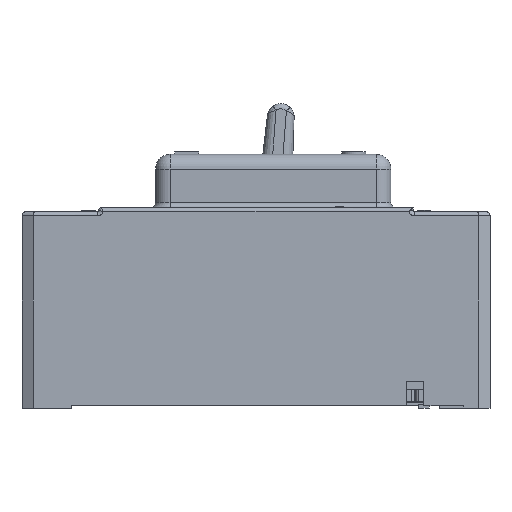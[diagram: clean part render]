
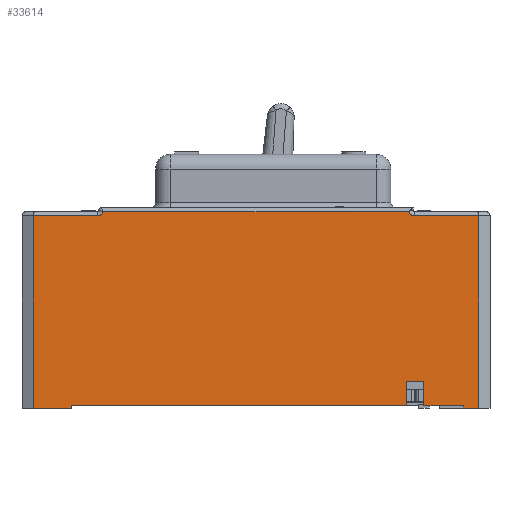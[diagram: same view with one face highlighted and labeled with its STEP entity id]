
A CAD part, left-side view. The second image highlights one B-rep face of the part: STEP entity #33614.
In plain terms, the highlighted planar face has unit normal (-1, 0, 0).
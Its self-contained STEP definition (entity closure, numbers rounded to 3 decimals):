
#177 = CARTESIAN_POINT ( 'NONE',  ( -56.25, -56.3, -44. ) ) ;
#270 = VERTEX_POINT ( 'NONE', #30763 ) ;
#380 = DIRECTION ( 'NONE',  ( 0., -1., 0. ) ) ;
#431 = CARTESIAN_POINT ( 'NONE',  ( -56.25, 59.242, 29. ) ) ;
#480 = ORIENTED_EDGE ( 'NONE', *, *, #27320, .T. ) ;
#682 = VERTEX_POINT ( 'NONE', #7555 ) ;
#942 = EDGE_CURVE ( 'NONE', #20586, #16869, #27100, .T. ) ;
#1024 = VERTEX_POINT ( 'NONE', #35393 ) ;
#2053 = CARTESIAN_POINT ( 'NONE',  ( -56.25, 69., -44. ) ) ;
#2203 = CARTESIAN_POINT ( 'NONE',  ( -56.25, -83.2, -45. ) ) ;
#2616 = EDGE_CURVE ( 'NONE', #1024, #25406, #31283, .T. ) ;
#2938 = VERTEX_POINT ( 'NONE', #24797 ) ;
#3259 = ORIENTED_EDGE ( 'NONE', *, *, #22129, .T. ) ;
#3402 = VERTEX_POINT ( 'NONE', #37374 ) ;
#3680 = FACE_OUTER_BOUND ( 'NONE', #26152, .T. ) ;
#3785 = DIRECTION ( 'NONE',  ( 0., 1., 0. ) ) ;
#3945 = CIRCLE ( 'NONE', #8688, 2. ) ;
#4149 = VERTEX_POINT ( 'NONE', #23396 ) ;
#4241 = CARTESIAN_POINT ( 'NONE',  ( -56.25, 57.306, 28.5 ) ) ;
#4589 = CARTESIAN_POINT ( 'NONE',  ( -56.25, -87.5, -45. ) ) ;
#5200 = ORIENTED_EDGE ( 'NONE', *, *, #942, .T. ) ;
#5362 = CARTESIAN_POINT ( 'NONE',  ( -56.25, 69., -45. ) ) ;
#5853 = ORIENTED_EDGE ( 'NONE', *, *, #17117, .T. ) ;
#6461 = ORIENTED_EDGE ( 'NONE', *, *, #7258, .T. ) ;
#6695 = VECTOR ( 'NONE', #27800, 1000. ) ;
#6725 = EDGE_CURVE ( 'NONE', #28127, #682, #12450, .T. ) ;
#6886 = ORIENTED_EDGE ( 'NONE', *, *, #32582, .T. ) ;
#7010 = VERTEX_POINT ( 'NONE', #5362 ) ;
#7258 = EDGE_CURVE ( 'NONE', #4149, #2938, #20115, .T. ) ;
#7387 = ORIENTED_EDGE ( 'NONE', *, *, #26447, .T. ) ;
#7472 = DIRECTION ( 'NONE',  ( 0., -1., 0. ) ) ;
#7555 = CARTESIAN_POINT ( 'NONE',  ( -56.25, 83.2, 27. ) ) ;
#7728 = CARTESIAN_POINT ( 'NONE',  ( -56.25, -87.5, -45. ) ) ;
#7906 = CARTESIAN_POINT ( 'NONE',  ( -56.25, -62.8, 92.737 ) ) ;
#7907 = VERTEX_POINT ( 'NONE', #25729 ) ;
#8293 = LINE ( 'NONE', #8379, #13101 ) ;
#8315 = CARTESIAN_POINT ( 'NONE',  ( -56.25, 69., -44. ) ) ;
#8379 = CARTESIAN_POINT ( 'NONE',  ( -56.25, 87.5, 27. ) ) ;
#8575 = DIRECTION ( 'NONE',  ( 0., -1., 0. ) ) ;
#8688 = AXIS2_PLACEMENT_3D ( 'NONE', #431, #30919, #3785 ) ;
#9067 = LINE ( 'NONE', #12442, #6695 ) ;
#9170 = VERTEX_POINT ( 'NONE', #23283 ) ;
#9936 = CARTESIAN_POINT ( 'NONE',  ( -56.25, -77.5, 144.712 ) ) ;
#10626 = LINE ( 'NONE', #35352, #35487 ) ;
#10855 = VECTOR ( 'NONE', #28685, 1000. ) ;
#11518 = VERTEX_POINT ( 'NONE', #23295 ) ;
#12005 = EDGE_CURVE ( 'NONE', #16869, #270, #8293, .T. ) ;
#12442 = CARTESIAN_POINT ( 'NONE',  ( -56.25, 57.742, 28.5 ) ) ;
#12450 = LINE ( 'NONE', #21860, #35875 ) ;
#12814 = ORIENTED_EDGE ( 'NONE', *, *, #2616, .F. ) ;
#12989 = CARTESIAN_POINT ( 'NONE',  ( -56.25, -62.8, -35. ) ) ;
#13101 = VECTOR ( 'NONE', #14657, 1000. ) ;
#13288 = DIRECTION ( 'NONE',  ( -1., 0., 0. ) ) ;
#13682 = DIRECTION ( 'NONE',  ( 0., 0., -1. ) ) ;
#14051 = DIRECTION ( 'NONE',  ( 0., 0., -1. ) ) ;
#14418 = AXIS2_PLACEMENT_3D ( 'NONE', #4589, #13288, #37629 ) ;
#14432 = LINE ( 'NONE', #36863, #34585 ) ;
#14657 = DIRECTION ( 'NONE',  ( 0., 1., 0. ) ) ;
#14796 = DIRECTION ( 'NONE',  ( 0., 0., -1. ) ) ;
#15240 = VECTOR ( 'NONE', #38812, 1000. ) ;
#15706 = CARTESIAN_POINT ( 'NONE',  ( -56.25, -83.2, 27. ) ) ;
#16121 = DIRECTION ( 'NONE',  ( 0., 1., 0. ) ) ;
#16869 = VERTEX_POINT ( 'NONE', #15706 ) ;
#17117 = EDGE_CURVE ( 'NONE', #682, #31796, #10626, .T. ) ;
#17312 = DIRECTION ( 'NONE',  ( 0., 0., -1. ) ) ;
#17357 = VECTOR ( 'NONE', #37592, 1000. ) ;
#17830 = LINE ( 'NONE', #7728, #28844 ) ;
#18313 = CARTESIAN_POINT ( 'NONE',  ( -56.25, 83.2, -45. ) ) ;
#18433 = VECTOR ( 'NONE', #14796, 1000. ) ;
#18464 = ORIENTED_EDGE ( 'NONE', *, *, #25931, .T. ) ;
#20115 = LINE ( 'NONE', #9936, #34958 ) ;
#20586 = VERTEX_POINT ( 'NONE', #2203 ) ;
#21348 = CARTESIAN_POINT ( 'NONE',  ( -56.25, 69., 144.712 ) ) ;
#21860 = CARTESIAN_POINT ( 'NONE',  ( -56.25, 83.2, 27. ) ) ;
#22129 = EDGE_CURVE ( 'NONE', #7907, #25406, #38640, .T. ) ;
#22252 = CARTESIAN_POINT ( 'NONE',  ( -56.25, -59.242, 29. ) ) ;
#22289 = CARTESIAN_POINT ( 'NONE',  ( -56.25, -83.2, -45. ) ) ;
#22783 = DIRECTION ( 'NONE',  ( 1., 0., 0. ) ) ;
#22890 = CARTESIAN_POINT ( 'NONE',  ( -56.25, 59.242, 27. ) ) ;
#23047 = ORIENTED_EDGE ( 'NONE', *, *, #28162, .T. ) ;
#23283 = CARTESIAN_POINT ( 'NONE',  ( -56.25, -57.306, 28.5 ) ) ;
#23295 = CARTESIAN_POINT ( 'NONE',  ( -56.25, -62.8, -44. ) ) ;
#23386 = LINE ( 'NONE', #2053, #15240 ) ;
#23396 = CARTESIAN_POINT ( 'NONE',  ( -56.25, -77.5, -44. ) ) ;
#24018 = ORIENTED_EDGE ( 'NONE', *, *, #6725, .T. ) ;
#24797 = CARTESIAN_POINT ( 'NONE',  ( -56.25, -77.5, -45. ) ) ;
#24844 = LINE ( 'NONE', #7906, #36787 ) ;
#25406 = VERTEX_POINT ( 'NONE', #177 ) ;
#25729 = CARTESIAN_POINT ( 'NONE',  ( -56.25, 69., -44. ) ) ;
#25742 = VECTOR ( 'NONE', #8575, 1000. ) ;
#25931 = EDGE_CURVE ( 'NONE', #1024, #3402, #26901, .T. ) ;
#26152 = EDGE_LOOP ( 'NONE', ( #12814, #18464, #23047, #6886, #6461, #28944, #5200, #33862, #480, #38682, #36439, #24018, #5853, #7387, #36183, #3259 ) ) ;
#26447 = EDGE_CURVE ( 'NONE', #31796, #7010, #14432, .T. ) ;
#26901 = LINE ( 'NONE', #12989, #17357 ) ;
#27100 = LINE ( 'NONE', #22289, #10855 ) ;
#27320 = EDGE_CURVE ( 'NONE', #270, #9170, #36354, .T. ) ;
#27800 = DIRECTION ( 'NONE',  ( 0., 1., 0. ) ) ;
#28127 = VERTEX_POINT ( 'NONE', #22890 ) ;
#28162 = EDGE_CURVE ( 'NONE', #3402, #11518, #24844, .T. ) ;
#28486 = LINE ( 'NONE', #21348, #18433 ) ;
#28685 = DIRECTION ( 'NONE',  ( 0., 0., 1. ) ) ;
#28844 = VECTOR ( 'NONE', #7472, 1000. ) ;
#28944 = ORIENTED_EDGE ( 'NONE', *, *, #39280, .T. ) ;
#30299 = AXIS2_PLACEMENT_3D ( 'NONE', #22252, #22783, #16121 ) ;
#30316 = EDGE_CURVE ( 'NONE', #38161, #28127, #3945, .T. ) ;
#30763 = CARTESIAN_POINT ( 'NONE',  ( -56.25, -59.242, 27. ) ) ;
#30919 = DIRECTION ( 'NONE',  ( 1., 0., 0. ) ) ;
#31089 = DIRECTION ( 'NONE',  ( 0., 1., 0. ) ) ;
#31283 = LINE ( 'NONE', #38700, #32252 ) ;
#31751 = EDGE_CURVE ( 'NONE', #9170, #38161, #9067, .T. ) ;
#31796 = VERTEX_POINT ( 'NONE', #18313 ) ;
#32252 = VECTOR ( 'NONE', #17312, 1000. ) ;
#32582 = EDGE_CURVE ( 'NONE', #11518, #4149, #23386, .T. ) ;
#33614 = ADVANCED_FACE ( 'NONE', ( #3680 ), #35219, .T. ) ;
#33862 = ORIENTED_EDGE ( 'NONE', *, *, #12005, .T. ) ;
#34337 = EDGE_CURVE ( 'NONE', #7907, #7010, #28486, .T. ) ;
#34407 = DIRECTION ( 'NONE',  ( 0., 0., -1. ) ) ;
#34585 = VECTOR ( 'NONE', #380, 1000. ) ;
#34958 = VECTOR ( 'NONE', #34407, 1000. ) ;
#35219 = PLANE ( 'NONE',  #14418 ) ;
#35352 = CARTESIAN_POINT ( 'NONE',  ( -56.25, 83.2, -45. ) ) ;
#35393 = CARTESIAN_POINT ( 'NONE',  ( -56.25, -56.3, -35. ) ) ;
#35487 = VECTOR ( 'NONE', #13682, 1000. ) ;
#35875 = VECTOR ( 'NONE', #31089, 1000. ) ;
#36183 = ORIENTED_EDGE ( 'NONE', *, *, #34337, .F. ) ;
#36354 = CIRCLE ( 'NONE', #30299, 2. ) ;
#36439 = ORIENTED_EDGE ( 'NONE', *, *, #30316, .T. ) ;
#36787 = VECTOR ( 'NONE', #14051, 1000. ) ;
#36863 = CARTESIAN_POINT ( 'NONE',  ( -56.25, -87.5, -45. ) ) ;
#37374 = CARTESIAN_POINT ( 'NONE',  ( -56.25, -62.8, -35. ) ) ;
#37592 = DIRECTION ( 'NONE',  ( 0., -1., 0. ) ) ;
#37629 = DIRECTION ( 'NONE',  ( 0., 1., 0. ) ) ;
#38161 = VERTEX_POINT ( 'NONE', #4241 ) ;
#38640 = LINE ( 'NONE', #8315, #25742 ) ;
#38682 = ORIENTED_EDGE ( 'NONE', *, *, #31751, .T. ) ;
#38700 = CARTESIAN_POINT ( 'NONE',  ( -56.25, -56.3, 92.737 ) ) ;
#38812 = DIRECTION ( 'NONE',  ( 0., -1., 0. ) ) ;
#39280 = EDGE_CURVE ( 'NONE', #2938, #20586, #17830, .T. ) ;
